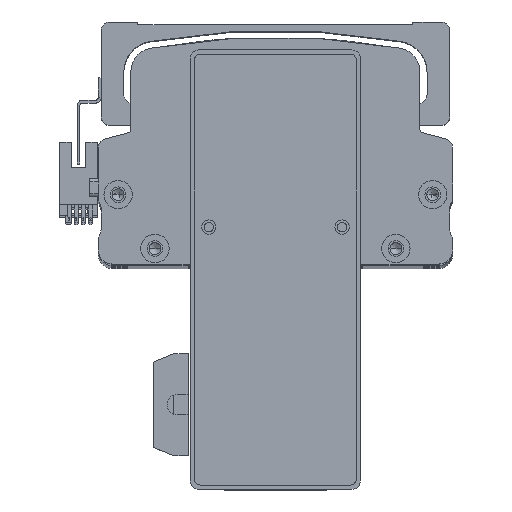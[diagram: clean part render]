
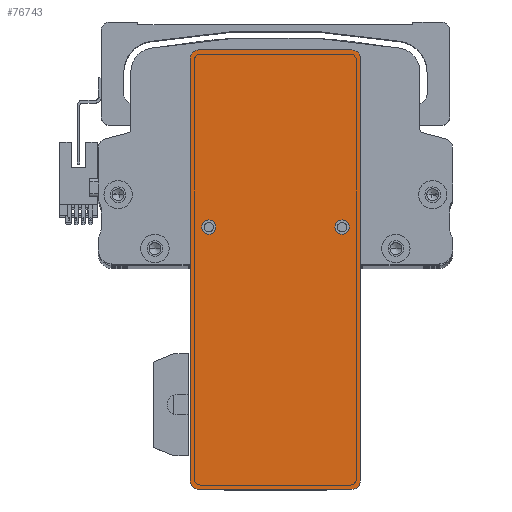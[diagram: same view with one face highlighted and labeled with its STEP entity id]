
A CAD part, top view. The second image highlights one B-rep face of the part: STEP entity #76743.
In plain terms, the highlighted planar face has unit normal (0, 0, 1) as drawn and (0, 0, -1) by its records, which use the part's own axes.
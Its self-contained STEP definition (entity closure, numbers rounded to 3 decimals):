
#298 = DIRECTION ( 'NONE',  ( 0., 0., 1. ) ) ;
#1480 = DIRECTION ( 'NONE',  ( -1., 0., 0. ) ) ;
#1585 = VERTEX_POINT ( 'NONE', #5538 ) ;
#2215 = VECTOR ( 'NONE', #24588, 1000. ) ;
#3315 = EDGE_CURVE ( 'NONE', #66132, #68731, #35635, .T. ) ;
#5416 = ORIENTED_EDGE ( 'NONE', *, *, #3315, .T. ) ;
#5538 = CARTESIAN_POINT ( 'NONE',  ( 12.5, 23.5, 0. ) ) ;
#5797 = CARTESIAN_POINT ( 'NONE',  ( 77.5, 30., 0. ) ) ;
#7065 = FACE_BOUND ( 'NONE', #23651, .T. ) ;
#7985 = CARTESIAN_POINT ( 'NONE',  ( 15., 23.5, 0. ) ) ;
#9472 = VECTOR ( 'NONE', #27026, 1000. ) ;
#12392 = CARTESIAN_POINT ( 'NONE',  ( 74.5, 30., 0. ) ) ;
#13180 = DIRECTION ( 'NONE',  ( 0., 0., -1. ) ) ;
#14261 = DIRECTION ( 'NONE',  ( -1., 0., 0. ) ) ;
#16328 = CARTESIAN_POINT ( 'NONE',  ( -74.5, 30., 0. ) ) ;
#16358 = ORIENTED_EDGE ( 'NONE', *, *, #28696, .F. ) ;
#17004 = CARTESIAN_POINT ( 'NONE',  ( -74.5, 27., 0. ) ) ;
#18202 = EDGE_CURVE ( 'NONE', #19380, #61781, #61809, .T. ) ;
#19208 = CIRCLE ( 'NONE', #23336, 2.5 ) ;
#19380 = VERTEX_POINT ( 'NONE', #33314 ) ;
#19818 = EDGE_CURVE ( 'NONE', #44143, #63874, #49957, .T. ) ;
#20002 = EDGE_CURVE ( 'NONE', #57685, #68731, #65472, .T. ) ;
#20643 = CARTESIAN_POINT ( 'NONE',  ( -74.5, -30., 0. ) ) ;
#20780 = CARTESIAN_POINT ( 'NONE',  ( 77.5, -30., 0. ) ) ;
#21706 = FACE_BOUND ( 'NONE', #42560, .T. ) ;
#22030 = EDGE_CURVE ( 'NONE', #67182, #1585, #79718, .T. ) ;
#23277 = DIRECTION ( 'NONE',  ( 1., 0., 0. ) ) ;
#23336 = AXIS2_PLACEMENT_3D ( 'NONE', #76147, #38878, #1480 ) ;
#23651 = EDGE_LOOP ( 'NONE', ( #16358, #77698 ) ) ;
#24079 = CARTESIAN_POINT ( 'NONE',  ( 17.5, 23.5, 0. ) ) ;
#24588 = DIRECTION ( 'NONE',  ( -1., 0., 0. ) ) ;
#24737 = LINE ( 'NONE', #53547, #41382 ) ;
#25575 = DIRECTION ( 'NONE',  ( 0., 0., -1. ) ) ;
#25617 = AXIS2_PLACEMENT_3D ( 'NONE', #62987, #25575, #69201 ) ;
#26056 = LINE ( 'NONE', #20780, #9472 ) ;
#27026 = DIRECTION ( 'NONE',  ( 1., 0., 0. ) ) ;
#28200 = VERTEX_POINT ( 'NONE', #20643 ) ;
#28696 = EDGE_CURVE ( 'NONE', #1585, #67182, #19208, .T. ) ;
#30102 = AXIS2_PLACEMENT_3D ( 'NONE', #30753, #74335, #37059 ) ;
#30753 = CARTESIAN_POINT ( 'NONE',  ( 74.5, 27., 0. ) ) ;
#31052 = CARTESIAN_POINT ( 'NONE',  ( 15., -23.5, 0. ) ) ;
#31497 = ORIENTED_EDGE ( 'NONE', *, *, #19818, .F. ) ;
#32952 = CARTESIAN_POINT ( 'NONE',  ( 17.5, -23.5, 0. ) ) ;
#33208 = DIRECTION ( 'NONE',  ( 0., 1., 0. ) ) ;
#33314 = CARTESIAN_POINT ( 'NONE',  ( -77.5, 27., 0. ) ) ;
#33781 = ORIENTED_EDGE ( 'NONE', *, *, #18202, .T. ) ;
#35635 = CIRCLE ( 'NONE', #30102, 3. ) ;
#35700 = ORIENTED_EDGE ( 'NONE', *, *, #75755, .F. ) ;
#36293 = CARTESIAN_POINT ( 'NONE',  ( -74.5, -27., 0. ) ) ;
#37059 = DIRECTION ( 'NONE',  ( 1., 0., 0. ) ) ;
#37385 = DIRECTION ( 'NONE',  ( -1., 0., 0. ) ) ;
#37391 = LINE ( 'NONE', #5797, #2215 ) ;
#37686 = CARTESIAN_POINT ( 'NONE',  ( 0., 0., 0. ) ) ;
#37750 = EDGE_CURVE ( 'NONE', #63874, #44143, #66789, .T. ) ;
#38765 = ORIENTED_EDGE ( 'NONE', *, *, #45521, .T. ) ;
#38878 = DIRECTION ( 'NONE',  ( 0., 0., -1. ) ) ;
#41382 = VECTOR ( 'NONE', #72287, 1000. ) ;
#41847 = CARTESIAN_POINT ( 'NONE',  ( 74.5, -30., 0. ) ) ;
#42325 = CARTESIAN_POINT ( 'NONE',  ( 77.5, -27., 0. ) ) ;
#42559 = DIRECTION ( 'NONE',  ( 1., 0., 0. ) ) ;
#42560 = EDGE_LOOP ( 'NONE', ( #74359, #31497 ) ) ;
#42997 = ORIENTED_EDGE ( 'NONE', *, *, #20002, .F. ) ;
#43711 = EDGE_CURVE ( 'NONE', #57685, #60784, #62351, .T. ) ;
#43969 = DIRECTION ( 'NONE',  ( 1., 0., 0. ) ) ;
#44143 = VERTEX_POINT ( 'NONE', #32952 ) ;
#45521 = EDGE_CURVE ( 'NONE', #28200, #74893, #77491, .T. ) ;
#46127 = EDGE_LOOP ( 'NONE', ( #42997, #46361, #60124, #38765, #35700, #33781, #49080, #5416 ) ) ;
#46361 = ORIENTED_EDGE ( 'NONE', *, *, #43711, .T. ) ;
#46799 = AXIS2_PLACEMENT_3D ( 'NONE', #7985, #51669, #14261 ) ;
#48939 = VECTOR ( 'NONE', #33208, 1000. ) ;
#49080 = ORIENTED_EDGE ( 'NONE', *, *, #79709, .F. ) ;
#49957 = CIRCLE ( 'NONE', #50225, 2.5 ) ;
#50225 = AXIS2_PLACEMENT_3D ( 'NONE', #31052, #74637, #37385 ) ;
#50591 = CARTESIAN_POINT ( 'NONE',  ( 15., -23.5, 0. ) ) ;
#51669 = DIRECTION ( 'NONE',  ( 0., 0., -1. ) ) ;
#53547 = CARTESIAN_POINT ( 'NONE',  ( -77.5, -30., 0. ) ) ;
#54920 = FACE_OUTER_BOUND ( 'NONE', #46127, .T. ) ;
#56837 = DIRECTION ( 'NONE',  ( -1., 0., 0. ) ) ;
#57222 = CARTESIAN_POINT ( 'NONE',  ( 12.5, -23.5, 0. ) ) ;
#57396 = EDGE_CURVE ( 'NONE', #28200, #60784, #26056, .T. ) ;
#57685 = VERTEX_POINT ( 'NONE', #42325 ) ;
#58674 = AXIS2_PLACEMENT_3D ( 'NONE', #36293, #79838, #42559 ) ;
#60124 = ORIENTED_EDGE ( 'NONE', *, *, #57396, .F. ) ;
#60699 = DIRECTION ( 'NONE',  ( 0., 0., -1. ) ) ;
#60784 = VERTEX_POINT ( 'NONE', #41847 ) ;
#61781 = VERTEX_POINT ( 'NONE', #16328 ) ;
#61809 = CIRCLE ( 'NONE', #67860, 3. ) ;
#62351 = CIRCLE ( 'NONE', #25617, 3. ) ;
#62987 = CARTESIAN_POINT ( 'NONE',  ( 74.5, -27., 0. ) ) ;
#63874 = VERTEX_POINT ( 'NONE', #57222 ) ;
#65472 = LINE ( 'NONE', #70541, #48939 ) ;
#66132 = VERTEX_POINT ( 'NONE', #12392 ) ;
#66789 = CIRCLE ( 'NONE', #74189, 2.5 ) ;
#67182 = VERTEX_POINT ( 'NONE', #24079 ) ;
#67860 = AXIS2_PLACEMENT_3D ( 'NONE', #17004, #60699, #23277 ) ;
#68731 = VERTEX_POINT ( 'NONE', #77528 ) ;
#69201 = DIRECTION ( 'NONE',  ( 1., 0., 0. ) ) ;
#69882 = AXIS2_PLACEMENT_3D ( 'NONE', #37686, #298, #43969 ) ;
#69980 = CARTESIAN_POINT ( 'NONE',  ( -77.5, -27., 0. ) ) ;
#70541 = CARTESIAN_POINT ( 'NONE',  ( 77.5, -30., 0. ) ) ;
#72287 = DIRECTION ( 'NONE',  ( 0., -1., 0. ) ) ;
#74189 = AXIS2_PLACEMENT_3D ( 'NONE', #50591, #13180, #56837 ) ;
#74335 = DIRECTION ( 'NONE',  ( 0., 0., -1. ) ) ;
#74359 = ORIENTED_EDGE ( 'NONE', *, *, #37750, .F. ) ;
#74637 = DIRECTION ( 'NONE',  ( 0., 0., -1. ) ) ;
#74685 = PLANE ( 'NONE',  #69882 ) ;
#74893 = VERTEX_POINT ( 'NONE', #69980 ) ;
#75755 = EDGE_CURVE ( 'NONE', #19380, #74893, #24737, .T. ) ;
#76147 = CARTESIAN_POINT ( 'NONE',  ( 15., 23.5, 0. ) ) ;
#76743 = ADVANCED_FACE ( 'NONE', ( #7065, #21706, #54920 ), #74685, .F. ) ;
#77491 = CIRCLE ( 'NONE', #58674, 3. ) ;
#77528 = CARTESIAN_POINT ( 'NONE',  ( 77.5, 27., 0. ) ) ;
#77698 = ORIENTED_EDGE ( 'NONE', *, *, #22030, .F. ) ;
#79709 = EDGE_CURVE ( 'NONE', #66132, #61781, #37391, .T. ) ;
#79718 = CIRCLE ( 'NONE', #46799, 2.5 ) ;
#79838 = DIRECTION ( 'NONE',  ( 0., 0., -1. ) ) ;
